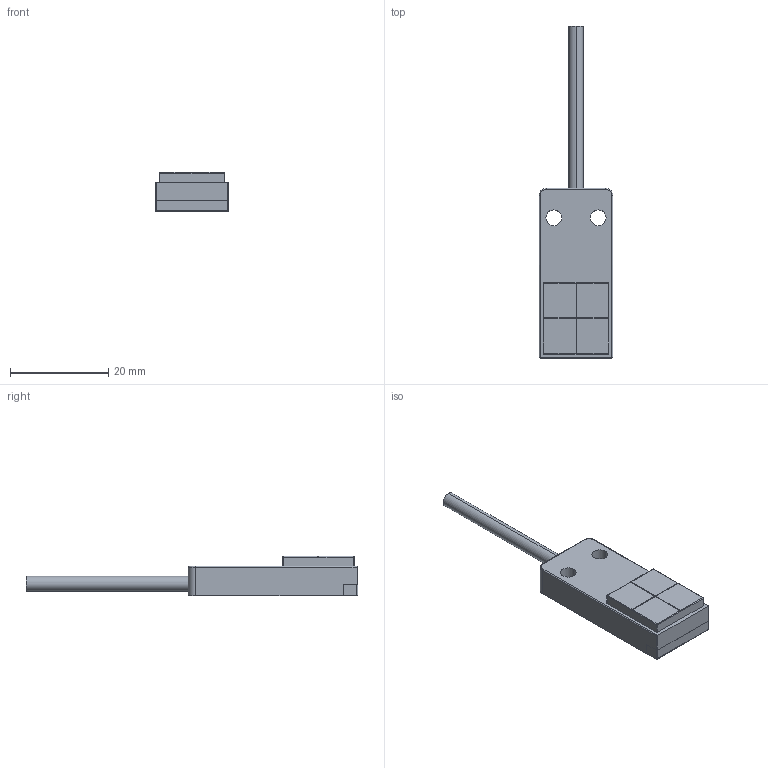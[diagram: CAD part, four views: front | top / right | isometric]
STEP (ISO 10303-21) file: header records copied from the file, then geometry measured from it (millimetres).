
FILE_DESCRIPTION (( 'STEP AP214' ), '1' );
FILE_NAME ('E15.STEP', '2015-09-23T09:35:27', ( '' ), ( '' ), 'SwSTEP 2.0', 'SolidWorks 2013', '' );
FILE_SCHEMA (( 'AUTOMOTIVE_DESIGN' ));
Length unit declared in the file: millimetre
Products named in the file (1): E15
Bounding box: 15 x 67.5 x 8 mm (x, y, z)
Volume: 3620.8 mm3; surface area: 2119.4 mm2
Topology: 1 solids, 1 shells, 57 faces, 149 edges, 95 vertices
Faces by surface type: plane 30, cylinder 24, torus 2, sphere 1
Entity records: 1876 total; most frequent: CARTESIAN_POINT 340, ORIENTED_EDGE 296, DIRECTION 292, EDGE_CURVE 148, AXIS2_PLACEMENT_3D 99, VERTEX_POINT 95, LINE 94, VECTOR 94
